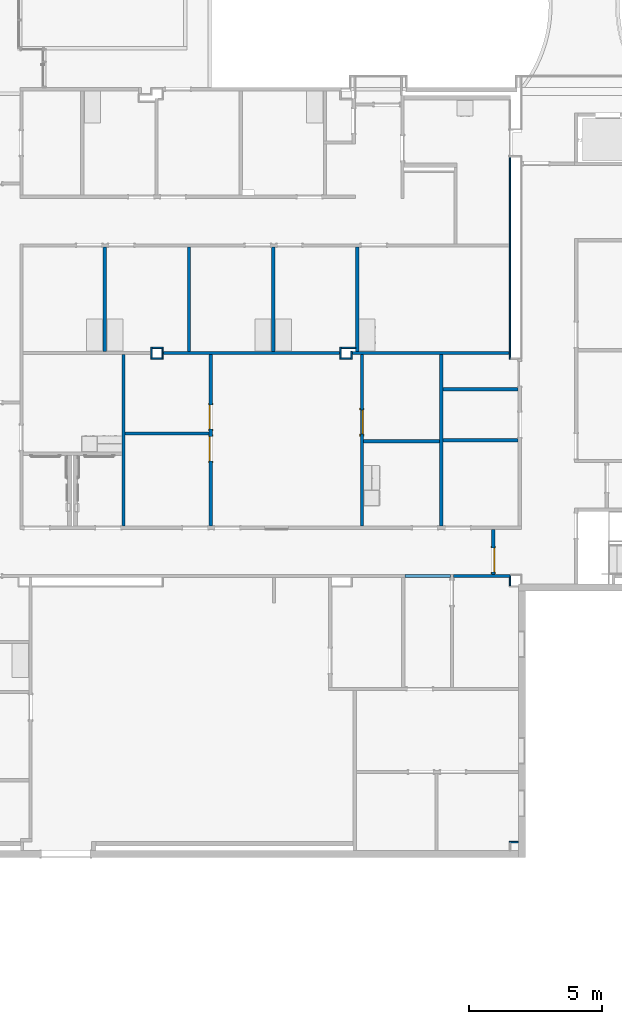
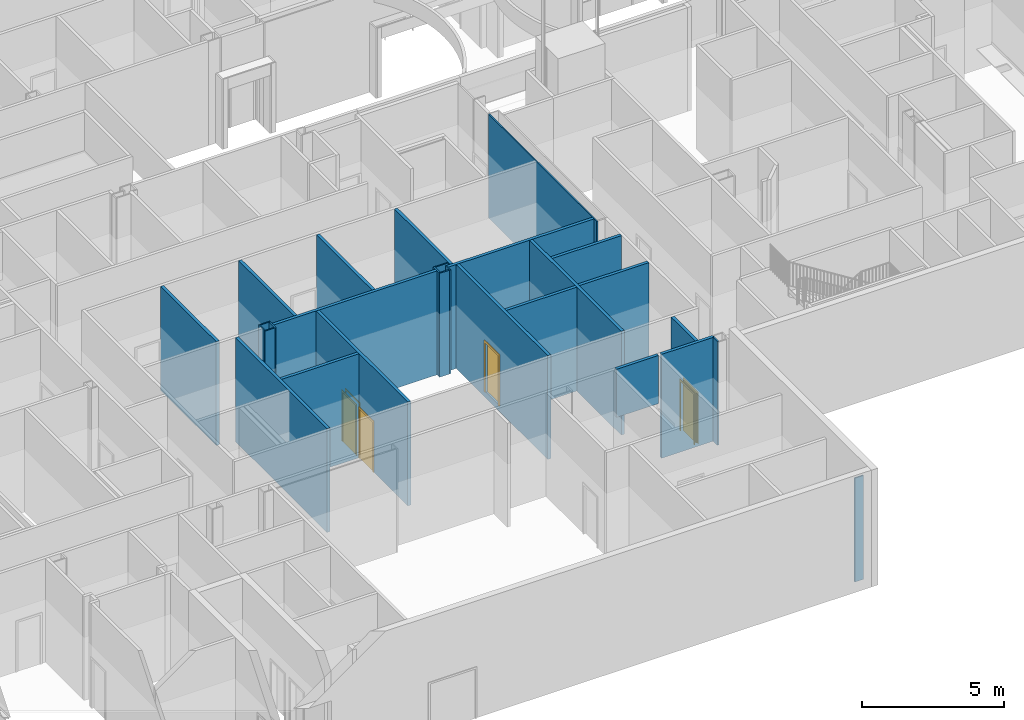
# One storey, part 22 of 87: 28 walls, 4 doors, 4 openings.
"""IFC2X3 building model written with IfcOpenShell, lengths in metres."""

from ifc_helpers import new_model, entity, si_unit, converted_unit, frame, frame_2d, origin, origin_2d_with_axis, place, context, project, spatial, polyline, rectangle, outline, extrude, source, transform, mapped, material, layer, layer_set, layer_usage, type_object, type_shapes, element, fill, save


model = new_model("IFC2X3")

# Units and contexts
model_context = context("Model", 3, precision=1e-09, world=origin())
plan_context = context("Plan", 3, precision=1e-09, world=origin())
ifc_project = project(units=[si_unit("LENGTHUNIT", "METRE"), si_unit("AREAUNIT", "SQUARE_METRE"), si_unit("VOLUMEUNIT", "CUBIC_METRE"), converted_unit("PLANEANGLEUNIT", "DEGREE", entity("IfcRatioMeasure", 0.01745329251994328), si_unit("PLANEANGLEUNIT", "RADIAN"), dimensions=[0, 0, 0, 0, 0, 0, 0]), si_unit("TIMEUNIT", "SECOND")], contexts=[model_context, plan_context])

# Site, building, storey
site_placement = place(None, origin())
site = spatial("IfcSite", under=ifc_project, at=site_placement, Name="Default", CompositionType="ELEMENT")
building_placement = place(site_placement, origin())
building = spatial("IfcBuilding", under=site, at=building_placement, CompositionType="ELEMENT")
storey_placement = place(building_placement, origin())
storey = spatial("IfcBuildingStorey", under=building, at=storey_placement, Name="First Floor", CompositionType="ELEMENT", Elevation=-3.531500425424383e-13)

# Walls
ifc_material_1 = material(Name="Plasterboard")
ifc_layer_1 = layer(ifc_material_1, 0.016)
ifc_material_2 = material(Name="Metal - Stud Layer")
ifc_layer_2 = layer(ifc_material_2, 0.092)
ifc_layer_3 = layer(ifc_material_1, 0.016)
ifc_layer_set_1 = layer_set([ifc_layer_1, ifc_layer_2, ifc_layer_3], Name="Basic Wall:Interior - Partition (92mm Stud)")
ifc_layer_usage_1 = layer_usage(ifc_layer_set_1, "AXIS2", "NEGATIVE", 0.062)
wall_1_placement = place(storey_placement, frame((-35.52200000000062, 22.60599999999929, 0.0), z_axis=(0.0, 0.0, 1.0), x_axis=(0.0, -1.0, 0.0)))
element("IfcWallStandardCase", 1, at=wall_1_placement, inside=storey, material=ifc_layer_usage_1, Name="Basic Wall:Interior - Partition (92mm Stud)", ObjectType="Basic Wall:Interior - Partition (92mm Stud)", context=model_context, shape_type="SweptSolid", body=[
    extrude(rectangle(XDim=3.921999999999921, YDim=0.1239999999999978, at=frame_2d((1.96099999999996, 0.0), x_axis=(-1.0, 0.0))), origin(), (0.0, 0.0, 1.0), 4.46800000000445),
])
ifc_layer_usage_2 = layer_usage(ifc_layer_set_1, "AXIS2", "NEGATIVE", 0.062)
wall_2_placement = place(storey_placement, frame((-32.35200000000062, 22.60599999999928, 0.0), z_axis=(0.0, 0.0, 1.0), x_axis=(0.0, -1.0, 0.0)))
element("IfcWallStandardCase", 2, at=wall_2_placement, inside=storey, material=ifc_layer_usage_2, Name="Basic Wall:Interior - Partition (92mm Stud)", ObjectType="Basic Wall:Interior - Partition (92mm Stud)", context=model_context, shape_type="SweptSolid", body=[
    extrude(rectangle(XDim=3.921999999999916, YDim=0.1239999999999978, at=frame_2d((1.960999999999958, 0.0), x_axis=(-1.0, 0.0))), origin(), (0.0, 0.0, 1.0), 4.46800000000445),
])
ifc_layer_usage_3 = layer_usage(ifc_layer_set_1, "AXIS2", "NEGATIVE", 0.062)
wall_3_placement = place(storey_placement, frame((-29.18200000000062, 22.60599999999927, 0.0), z_axis=(0.0, 0.0, 1.0), x_axis=(0.0, -1.0, 0.0)))
element("IfcWallStandardCase", 3, at=wall_3_placement, inside=storey, material=ifc_layer_usage_3, Name="Basic Wall:Interior - Partition (92mm Stud)", ObjectType="Basic Wall:Interior - Partition (92mm Stud)", context=model_context, shape_type="SweptSolid", body=[
    extrude(rectangle(XDim=3.921999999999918, YDim=0.1239999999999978, at=frame_2d((1.960999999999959, 0.0), x_axis=(-1.0, 0.0))), origin(), (0.0, 0.0, 1.0), 4.46800000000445),
])
ifc_layer_usage_4 = layer_usage(ifc_layer_set_1, "AXIS2", "NEGATIVE", 0.062)
wall_4_placement = place(storey_placement, frame((-26.01200000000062, 22.60599999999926, 0.0), z_axis=(0.0, 0.0, 1.0), x_axis=(0.0, -1.0, 0.0)))
element("IfcWallStandardCase", 4, at=wall_4_placement, inside=storey, material=ifc_layer_usage_4, Name="Basic Wall:Interior - Partition (92mm Stud)", ObjectType="Basic Wall:Interior - Partition (92mm Stud)", context=model_context, shape_type="SweptSolid", body=[
    extrude(rectangle(XDim=3.921999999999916, YDim=0.1239999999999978, at=frame_2d((1.960999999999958, 0.0), x_axis=(-1.0, 0.0))), origin(), (0.0, 0.0, 1.0), 4.46800000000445),
])
ifc_layer_usage_5 = layer_usage(ifc_layer_set_1, "AXIS2", "NEGATIVE", 0.062)
wall_5_placement = place(storey_placement, frame((-20.29000000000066, 18.62199999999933, 0.0), z_axis=(0.0, 0.0, 1.0), x_axis=(-1.0, 0.0, 0.0)))
element("IfcWallStandardCase", 5, at=wall_5_placement, inside=storey, material=ifc_layer_usage_5, Name="Basic Wall:Interior - Partition (92mm Stud)", ObjectType="Basic Wall:Interior - Partition (92mm Stud)", context=model_context, shape_type="SweptSolid", body=[
    extrude(rectangle(XDim=5.919999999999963, YDim=0.1240000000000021, at=frame_2d((2.959999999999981, 0.0), x_axis=(-1.0, 0.0))), origin(), (0.0, 0.0, 1.0), 4.468000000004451),
])
ifc_layer_4 = layer(ifc_material_2, 0.038)
ifc_layer_5 = layer(ifc_material_1, 0.016)
ifc_layer_set_2 = layer_set([ifc_layer_4, ifc_layer_5], Name="Basic Wall:Interior - Furring (38 mm Stud)")
ifc_layer_usage_6 = layer_usage(ifc_layer_set_2, "AXIS2", "POSITIVE", -0.027)
wall_6_placement = place(storey_placement, frame((-26.64300000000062, 18.43399999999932, 0.0), z_axis=(0.0, 0.0, 1.0), x_axis=(0.0, 1.0, 0.0)))
element("IfcWallStandardCase", 6, at=wall_6_placement, inside=storey, material=ifc_layer_usage_6, Name="Basic Wall:Interior - Furring (38 mm Stud)", ObjectType="Basic Wall:Interior - Furring (38 mm Stud)", context=model_context, shape_type="SweptSolid", body=[
    extrude(rectangle(XDim=0.4059999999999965, YDim=0.05399999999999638, at=frame_2d((0.2029999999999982, 0.0), x_axis=(-1.0, 0.0))), origin(), (0.0, 0.0, 1.0), 4.468000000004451),
])
ifc_layer_usage_7 = layer_usage(ifc_layer_set_2, "AXIS2", "POSITIVE", -0.027)
wall_7_placement = place(storey_placement, frame((-26.61600000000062, 18.81299999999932, 0.0)))
element("IfcWallStandardCase", 7, at=wall_7_placement, inside=storey, material=ifc_layer_usage_7, Name="Basic Wall:Interior - Furring (38 mm Stud)", ObjectType="Basic Wall:Interior - Furring (38 mm Stud)", context=model_context, shape_type="SweptSolid", body=[
    extrude(rectangle(XDim=0.5419999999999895, YDim=0.05400000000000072, at=frame_2d((0.2709999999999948, 0.0), x_axis=(-1.0, 0.0))), origin(), (0.0, 0.0, 1.0), 4.46800000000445),
])
ifc_layer_usage_8 = layer_usage(ifc_layer_set_1, "AXIS2", "NEGATIVE", 0.062)
wall_8_placement = place(storey_placement, frame((-26.67000000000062, 18.62199999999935, 0.0), z_axis=(0.0, 0.0, 1.0), x_axis=(-1.0, 0.0, 0.0)))
element("IfcWallStandardCase", 8, at=wall_8_placement, inside=storey, material=ifc_layer_usage_8, Name="Basic Wall:Interior - Partition (92mm Stud)", ObjectType="Basic Wall:Interior - Partition (92mm Stud)", context=model_context, shape_type="SweptSolid", body=[
    extrude(rectangle(XDim=6.650000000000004, YDim=0.1240000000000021, at=frame_2d((3.325000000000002, 0.0), x_axis=(-1.0, 0.0))), origin(), (0.0, 0.0, 1.0), 4.468000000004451),
])
ifc_layer_usage_9 = layer_usage(ifc_layer_set_2, "AXIS2", "POSITIVE", -0.027)
wall_9_placement = place(storey_placement, frame((-26.23700000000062, 18.68399999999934, 0.0), z_axis=(0.0, 0.0, 1.0), x_axis=(0.0, -1.0, 0.0)))
element("IfcWallStandardCase", 9, at=wall_9_placement, inside=storey, material=ifc_layer_usage_9, Name="Basic Wall:Interior - Furring (38 mm Stud)", ObjectType="Basic Wall:Interior - Furring (38 mm Stud)", context=model_context, shape_type="SweptSolid", body=[
    extrude(rectangle(XDim=0.3040000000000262, YDim=0.05399999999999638, at=frame_2d((0.1520000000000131, 0.0), x_axis=(-1.0, 0.0))), origin(), (0.0, 0.0, 1.0), 4.468000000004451),
])
ifc_layer_usage_10 = layer_usage(ifc_layer_set_2, "AXIS2", "POSITIVE", -0.027)
wall_10_placement = place(storey_placement, frame((-26.26400000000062, 18.40699999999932, 0.0), z_axis=(0.0, 0.0, 1.0), x_axis=(-1.0, 0.0, 0.0)))
element("IfcWallStandardCase", 10, at=wall_10_placement, inside=storey, material=ifc_layer_usage_10, Name="Basic Wall:Interior - Furring (38 mm Stud)", ObjectType="Basic Wall:Interior - Furring (38 mm Stud)", context=model_context, shape_type="SweptSolid", body=[
    extrude(rectangle(XDim=0.4059999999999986, YDim=0.05400000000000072, at=frame_2d((0.2029999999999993, 0.0), x_axis=(-1.0, 0.0))), origin(), (0.0, 0.0, 1.0), 4.468000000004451),
])
ifc_layer_usage_11 = layer_usage(ifc_layer_set_2, "AXIS2", "POSITIVE", -0.027)
wall_11_placement = place(storey_placement, frame((-33.75300000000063, 18.43399999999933, 0.0), z_axis=(0.0, 0.0, 1.0), x_axis=(0.0, 1.0, 0.0)))
element("IfcWallStandardCase", 11, at=wall_11_placement, inside=storey, material=ifc_layer_usage_11, Name="Basic Wall:Interior - Furring (38 mm Stud)", ObjectType="Basic Wall:Interior - Furring (38 mm Stud)", context=model_context, shape_type="SweptSolid", body=[
    extrude(rectangle(XDim=0.4059999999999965, YDim=0.05399999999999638, at=frame_2d((0.2029999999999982, 0.0), x_axis=(-1.0, 0.0))), origin(), (0.0, 0.0, 1.0), 4.46800000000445),
])
ifc_layer_usage_12 = layer_usage(ifc_layer_set_2, "AXIS2", "POSITIVE", -0.027)
wall_12_placement = place(storey_placement, frame((-33.72600000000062, 18.81299999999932, 0.0)))
element("IfcWallStandardCase", 12, at=wall_12_placement, inside=storey, material=ifc_layer_usage_12, Name="Basic Wall:Interior - Furring (38 mm Stud)", ObjectType="Basic Wall:Interior - Furring (38 mm Stud)", context=model_context, shape_type="SweptSolid", body=[
    extrude(rectangle(XDim=0.4059999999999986, YDim=0.05400000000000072, at=frame_2d((0.2029999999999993, 0.0), x_axis=(-1.0, 0.0))), origin(), (0.0, 0.0, 1.0), 4.468000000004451),
])
ifc_layer_usage_13 = layer_usage(ifc_layer_set_2, "AXIS2", "POSITIVE", -0.027)
wall_13_placement = place(storey_placement, frame((-33.34700000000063, 18.78599999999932, 0.0), z_axis=(0.0, 0.0, 1.0), x_axis=(0.0, -1.0, 0.0)))
element("IfcWallStandardCase", 13, at=wall_13_placement, inside=storey, material=ifc_layer_usage_13, Name="Basic Wall:Interior - Furring (38 mm Stud)", ObjectType="Basic Wall:Interior - Furring (38 mm Stud)", context=model_context, shape_type="SweptSolid", body=[
    extrude(rectangle(XDim=0.4059999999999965, YDim=0.05399999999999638, at=frame_2d((0.2029999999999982, 0.0), x_axis=(-1.0, 0.0))), origin(), (0.0, 0.0, 1.0), 4.46800000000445),
])
ifc_layer_usage_14 = layer_usage(ifc_layer_set_2, "AXIS2", "POSITIVE", -0.027)
wall_14_placement = place(storey_placement, frame((-33.37400000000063, 18.40699999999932, 0.0), z_axis=(0.0, 0.0, 1.0), x_axis=(-1.0, 0.0, 0.0)))
element("IfcWallStandardCase", 14, at=wall_14_placement, inside=storey, material=ifc_layer_usage_14, Name="Basic Wall:Interior - Furring (38 mm Stud)", ObjectType="Basic Wall:Interior - Furring (38 mm Stud)", context=model_context, shape_type="SweptSolid", body=[
    extrude(rectangle(XDim=0.4059999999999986, YDim=0.05400000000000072, at=frame_2d((0.2029999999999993, 0.0), x_axis=(-1.0, 0.0))), origin(), (0.0, 0.0, 1.0), 4.468000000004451),
])
ifc_layer_usage_15 = layer_usage(ifc_layer_set_1, "AXIS2", "NEGATIVE", 0.062)
wall_15_placement = place(storey_placement, frame((-34.81200000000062, 18.55999999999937, 0.0), z_axis=(0.0, 0.0, 1.0), x_axis=(0.0, -1.0, 0.0)))
element("IfcWallStandardCase", 15, at=wall_15_placement, inside=storey, material=ifc_layer_usage_15, Name="Basic Wall:Interior - Partition (92mm Stud)", ObjectType="Basic Wall:Interior - Partition (92mm Stud)", context=model_context, shape_type="SweptSolid", body=[
    extrude(rectangle(XDim=6.456000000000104, YDim=0.1239999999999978, at=frame_2d((3.228000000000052, 0.0), x_axis=(-1.0, 0.0))), origin(), (0.0, 0.0, 1.0), 4.468000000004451),
])

# Wall, openings, doors
ifc_layer_usage_16 = layer_usage(ifc_layer_set_1, "AXIS2", "NEGATIVE", 0.062)
wall_16_placement = place(storey_placement, frame((-31.53200000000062, 18.55999999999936, 0.0), z_axis=(0.0, 0.0, 1.0), x_axis=(0.0, -1.0, 0.0)))
wall_16 = element("IfcWallStandardCase", 16, at=wall_16_placement, inside=storey, material=ifc_layer_usage_16, Name="Basic Wall:Interior - Partition (92mm Stud)", ObjectType="Basic Wall:Interior - Partition (92mm Stud)", context=model_context, shape_type="SweptSolid", body=[
    extrude(rectangle(XDim=6.456000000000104, YDim=0.1239999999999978, at=frame_2d((3.228000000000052, 0.0), x_axis=(-1.0, 0.0))), origin(), (0.0, 0.0, 1.0), 4.46800000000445),
])
opening_1_placement = place(wall_16_placement, frame((2.81000000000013, 0.06199999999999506, 0.0)))
opening_1 = element("IfcOpeningElement", 17, at=opening_1_placement, cuts=wall_16, Name="M_Single-Flush:0915 x 2134mm:0915 x 2134mm:1", ObjectType="Opening", context=model_context, shape_type="SweptSolid", body=[
    extrude(rectangle(XDim=0.9149999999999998, YDim=2.134, at=frame_2d((1.067, 0.4574999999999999), x_axis=(0.0, -1.0))), frame((0.0, 0.0, 0.0), z_axis=(0.0, -1.0, 0.0), x_axis=(0.0, 0.0, 1.0)), (0.0, 0.0, 1.0), 0.124),
])
opening_2_placement = place(wall_16_placement, frame((4.009000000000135, 0.06199999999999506, 0.0)))
opening_2 = element("IfcOpeningElement", 18, at=opening_2_placement, cuts=wall_16, Name="M_Single-Flush:0915 x 2134mm:0915 x 2134mm:1", ObjectType="Opening", context=model_context, shape_type="SweptSolid", body=[
    extrude(rectangle(XDim=0.9149999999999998, YDim=2.134, at=frame_2d((1.067, 0.4575), x_axis=(0.0, 1.0))), frame((0.0, 0.0, 0.0), z_axis=(0.0, -1.0, 0.0), x_axis=(0.0, 0.0, 1.0)), (0.0, 0.0, 1.0), 0.124),
])
door_style_1 = type_object("IfcDoorStyle", Name="0915 x 2134mm", ConstructionType="NOTDEFINED", OperationType="SINGLE_SWING_RIGHT", ParameterTakesPrecedence=False, Sizeable=False)
shared_shape_1 = source(origin(), model_context, "Body", "SweptSolid", [
    extrude(outline(polyline([(-0.5335, -1.123999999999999), (0.5334999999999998, -1.123999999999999), (0.5334999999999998, 1.086), (0.4574999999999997, 1.086), (0.4574999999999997, -1.048000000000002), (-0.4574999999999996, -1.048000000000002), (-0.4574999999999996, 1.086), (-0.5335, 1.086), (-0.5335, -1.123999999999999)])), frame((0.4575000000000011, 0.1239999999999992, 1.086), z_axis=(0.0, 1.0, 0.0), x_axis=(1.0, 0.0, 0.0)), (0.0, 0.0, 1.0), 0.02499999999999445),
    extrude(outline(polyline([(-1.123999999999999, -0.5334999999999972), (1.085999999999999, -0.5334999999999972), (1.085999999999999, -0.4575000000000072), (-1.048, -0.4575000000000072), (-1.048, 0.4575000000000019), (1.085999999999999, 0.4575000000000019), (1.085999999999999, 0.5335000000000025), (-1.123999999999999, 0.5335000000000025), (-1.123999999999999, -0.5334999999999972)])), frame((0.4575000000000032, -0.02500000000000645, 1.085999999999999), z_axis=(0.0, 1.0, 0.0), x_axis=(0.0, 0.0, -1.0)), (0.0, 0.0, 1.0), 0.02500000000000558),
    extrude(rectangle(XDim=0.051, YDim=0.9149999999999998, at=origin_2d_with_axis()), frame((0.4575000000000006, 0.09849999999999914, 0.0), z_axis=(0.0, 0.0, 1.0), x_axis=(0.0, 1.0, 0.0)), (0.0, 0.0, 1.0), 2.133999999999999),
])
type_shapes(door_style_1, [shared_shape_1])
door_1_placement = place(opening_2_placement, frame((0.0, 0.0, 0.0), z_axis=(0.0, 0.0, 1.0), x_axis=(-1.0, 0.0, 0.0)))
door_1 = element("IfcDoor", 19, at=door_1_placement, inside=storey, type_object=door_style_1, Name="M_Single-Flush:0915 x 2134mm:0915 x 2134mm", ObjectType="0915 x 2134mm", OverallHeight=2.134, OverallWidth=0.9149999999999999, context=model_context, shape_type="MappedRepresentation", body=[
    mapped(shared_shape_1, transform((0.0, 0.0, 0.0), scale=1.0)),
])
fill(opening_2, door_1)
door_style_2 = type_object("IfcDoorStyle", Name="0915 x 2134mm", ConstructionType="NOTDEFINED", OperationType="SINGLE_SWING_LEFT", ParameterTakesPrecedence=False, Sizeable=False)
shared_shape_2 = source(origin(), model_context, "Body", "SweptSolid", [
    extrude(outline(polyline([(-0.5335, -1.123999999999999), (0.5334999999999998, -1.123999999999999), (0.5334999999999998, 1.086), (0.4574999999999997, 1.086), (0.4574999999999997, -1.048000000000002), (-0.4574999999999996, -1.048000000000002), (-0.4574999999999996, 1.086), (-0.5335, 1.086), (-0.5335, -1.123999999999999)])), frame((0.4575000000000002, 0.1489999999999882, 1.086), z_axis=(0.0, -1.0, 0.0), x_axis=(-1.0, 0.0, 0.0)), (0.0, 0.0, 1.0), 0.02499999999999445),
    extrude(outline(polyline([(-1.123999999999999, -0.5334999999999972), (1.085999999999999, -0.5334999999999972), (1.085999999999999, -0.4575000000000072), (-1.048, -0.4575000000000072), (-1.048, 0.4575000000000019), (1.085999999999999, 0.4575000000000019), (1.085999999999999, 0.5335000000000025), (-1.123999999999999, 0.5335000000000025), (-1.123999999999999, -0.5334999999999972)])), frame((0.4574999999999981, 0.0, 1.085999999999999), z_axis=(0.0, -1.0, 0.0), x_axis=(0.0, 0.0, -1.0)), (0.0, 0.0, 1.0), 0.02500000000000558),
    extrude(rectangle(XDim=0.9149999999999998, YDim=0.051, at=origin_2d_with_axis()), frame((0.4575000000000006, 0.09849999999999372, 0.0)), (0.0, 0.0, 1.0), 2.133999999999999),
])
type_shapes(door_style_2, [shared_shape_2])
door_2_placement = place(opening_1_placement, frame((0.0, 0.0, 0.0), z_axis=(0.0, 0.0, 1.0), x_axis=(-1.0, 0.0, 0.0)))
door_2 = element("IfcDoor", 20, at=door_2_placement, inside=storey, type_object=door_style_2, Name="M_Single-Flush:0915 x 2134mm:0915 x 2134mm", ObjectType="0915 x 2134mm", OverallHeight=2.134, OverallWidth=0.9149999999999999, context=model_context, shape_type="MappedRepresentation", body=[
    mapped(shared_shape_2, transform((0.0, 0.0, 0.0), scale=1.0)),
])
fill(opening_1, door_2)

# Wall
ifc_layer_usage_17 = layer_usage(ifc_layer_set_1, "AXIS2", "NEGATIVE", 0.062)
wall_17_placement = place(storey_placement, frame((-34.75000000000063, 15.58799999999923, 0.0)))
element("IfcWallStandardCase", 21, at=wall_17_placement, inside=storey, material=ifc_layer_usage_17, Name="Basic Wall:Interior - Partition (92mm Stud)", ObjectType="Basic Wall:Interior - Partition (92mm Stud)", context=model_context, shape_type="SweptSolid", body=[
    extrude(rectangle(XDim=3.156000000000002, YDim=0.1240000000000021, at=frame_2d((1.578000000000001, 0.0), x_axis=(-1.0, 0.0))), origin(), (0.0, 0.0, 1.0), 4.46800000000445),
])

# Wall, opening, door
ifc_layer_usage_18 = layer_usage(ifc_layer_set_1, "AXIS2", "NEGATIVE", 0.062)
wall_18_placement = place(storey_placement, frame((-25.83800000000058, 12.10399999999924, 0.0), z_axis=(0.0, 0.0, 1.0), x_axis=(0.0, 1.0, 0.0)))
wall_18 = element("IfcWallStandardCase", 22, at=wall_18_placement, inside=storey, material=ifc_layer_usage_18, Name="Basic Wall:Interior - Partition (92mm Stud)", ObjectType="Basic Wall:Interior - Partition (92mm Stud)", context=model_context, shape_type="SweptSolid", body=[
    extrude(rectangle(XDim=6.456000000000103, YDim=0.1239999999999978, at=frame_2d((3.228000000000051, 0.0), x_axis=(-1.0, 0.0))), origin(), (0.0, 0.0, 1.0), 4.468000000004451),
])
opening_3_placement = place(wall_18_placement, frame((4.371000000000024, 0.06199999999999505, 0.2499999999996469)))
opening_3 = element("IfcOpeningElement", 23, at=opening_3_placement, cuts=wall_18, Name="M_Single-Flush:0915 x 2134mm Rated:0915 x 2134mm Rated:1", ObjectType="Opening", context=model_context, shape_type="SweptSolid", body=[
    extrude(rectangle(XDim=0.9149999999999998, YDim=2.134, at=frame_2d((1.067, 0.4575), x_axis=(0.0, 1.0))), frame((0.0, 0.0, 0.0), z_axis=(0.0, -1.0, 0.0), x_axis=(0.0, 0.0, 1.0)), (0.0, 0.0, 1.0), 0.124),
])
door_style_3 = type_object("IfcDoorStyle", Name="0915 x 2134mm Rated", ConstructionType="NOTDEFINED", OperationType="SINGLE_SWING_RIGHT", ParameterTakesPrecedence=False, Sizeable=False)
shared_shape_3 = source(origin(), model_context, "Body", "SweptSolid", [
    extrude(outline(polyline([(-0.5335, -1.123999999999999), (0.5334999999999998, -1.123999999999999), (0.5334999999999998, 1.086), (0.4574999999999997, 1.086), (0.4574999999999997, -1.048000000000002), (-0.4574999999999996, -1.048000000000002), (-0.4574999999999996, 1.086), (-0.5335, 1.086), (-0.5335, -1.123999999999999)])), frame((0.4575000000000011, 0.1240000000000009, 1.086), z_axis=(0.0, 1.0, 0.0), x_axis=(1.0, 0.0, 0.0)), (0.0, 0.0, 1.0), 0.02499999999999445),
    extrude(outline(polyline([(-1.123999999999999, -0.5334999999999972), (1.085999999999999, -0.5334999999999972), (1.085999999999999, -0.4575000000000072), (-1.048, -0.4575000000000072), (-1.048, 0.4575000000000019), (1.085999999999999, 0.4575000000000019), (1.085999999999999, 0.5335000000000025), (-1.123999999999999, 0.5335000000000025), (-1.123999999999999, -0.5334999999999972)])), frame((0.4575000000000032, -0.02500000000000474, 1.085999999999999), z_axis=(0.0, 1.0, 0.0), x_axis=(0.0, 0.0, -1.0)), (0.0, 0.0, 1.0), 0.02500000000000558),
    extrude(rectangle(XDim=0.051, YDim=0.9149999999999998, at=origin_2d_with_axis()), frame((0.4575000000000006, 0.09850000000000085, 0.0), z_axis=(0.0, 0.0, 1.0), x_axis=(0.0, 1.0, 0.0)), (0.0, 0.0, 1.0), 2.133999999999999),
])
type_shapes(door_style_3, [shared_shape_3])
door_3_placement = place(opening_3_placement, frame((0.0, 0.0, 0.0), z_axis=(0.0, 0.0, 1.0), x_axis=(-1.0, 0.0, 0.0)))
door_3 = element("IfcDoor", 24, at=door_3_placement, inside=storey, type_object=door_style_3, Name="M_Single-Flush:0915 x 2134mm Rated:0915 x 2134mm Rated", ObjectType="0915 x 2134mm Rated", OverallHeight=2.134, OverallWidth=0.9149999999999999, context=model_context, shape_type="MappedRepresentation", body=[
    mapped(shared_shape_3, transform((0.0, 0.0, 0.0), scale=1.0)),
])
fill(opening_3, door_3)

# Walls
ifc_layer_usage_19 = layer_usage(ifc_layer_set_1, "AXIS2", "NEGATIVE", 0.062)
wall_19_placement = place(storey_placement, frame((-22.84800000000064, 12.10399999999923, 0.0), z_axis=(0.0, 0.0, 1.0), x_axis=(0.0, 1.0, 0.0)))
element("IfcWallStandardCase", 25, at=wall_19_placement, inside=storey, material=ifc_layer_usage_19, Name="Basic Wall:Interior - Partition (92mm Stud)", ObjectType="Basic Wall:Interior - Partition (92mm Stud)", context=model_context, shape_type="SweptSolid", body=[
    extrude(rectangle(XDim=6.456000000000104, YDim=0.1239999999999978, at=frame_2d((3.228000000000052, 0.0), x_axis=(-1.0, 0.0))), origin(), (0.0, 0.0, 1.0), 4.46800000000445),
])
ifc_layer_usage_20 = layer_usage(ifc_layer_set_1, "AXIS2", "NEGATIVE", 0.062)
wall_20_placement = place(storey_placement, frame((-25.77600000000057, 15.29799999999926, 0.0)))
element("IfcWallStandardCase", 26, at=wall_20_placement, inside=storey, material=ifc_layer_usage_20, Name="Basic Wall:Interior - Partition (92mm Stud)", ObjectType="Basic Wall:Interior - Partition (92mm Stud)", context=model_context, shape_type="SweptSolid", body=[
    extrude(rectangle(XDim=2.865999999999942, YDim=0.1240000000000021, at=frame_2d((1.432999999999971, 0.0), x_axis=(-1.0, 0.0))), origin(), (0.0, 0.0, 1.0), 4.46800000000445),
])
ifc_layer_usage_21 = layer_usage(ifc_layer_set_1, "AXIS2", "NEGATIVE", 0.062)
wall_21_placement = place(storey_placement, frame((-19.95400000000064, 15.33199999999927, 0.0), z_axis=(0.0, 0.0, 1.0), x_axis=(-1.0, 0.0, 0.0)))
element("IfcWallStandardCase", 27, at=wall_21_placement, inside=storey, material=ifc_layer_usage_21, Name="Basic Wall:Interior - Partition (92mm Stud)", ObjectType="Basic Wall:Interior - Partition (92mm Stud)", context=model_context, shape_type="SweptSolid", body=[
    extrude(rectangle(XDim=2.831999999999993, YDim=0.1240000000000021, at=frame_2d((1.415999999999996, 0.0), x_axis=(-1.0, 0.0))), origin(), (0.0, 0.0, 1.0), 4.46800000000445),
])
ifc_layer_usage_22 = layer_usage(ifc_layer_set_1, "AXIS2", "NEGATIVE", 0.062)
wall_22_placement = place(storey_placement, frame((-19.95400000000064, 17.25199999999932, 0.0), z_axis=(0.0, 0.0, 1.0), x_axis=(-1.0, 0.0, 0.0)))
element("IfcWallStandardCase", 28, at=wall_22_placement, inside=storey, material=ifc_layer_usage_22, Name="Basic Wall:Interior - Partition (92mm Stud)", ObjectType="Basic Wall:Interior - Partition (92mm Stud)", context=model_context, shape_type="SweptSolid", body=[
    extrude(rectangle(XDim=2.831999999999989, YDim=0.1240000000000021, at=frame_2d((1.415999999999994, 0.0), x_axis=(-1.0, 0.0))), origin(), (0.0, 0.0, 1.0), 4.46800000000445),
])
ifc_layer_usage_23 = layer_usage(ifc_layer_set_1, "AXIS2", "NEGATIVE", 0.062)
wall_23_placement = place(storey_placement, frame((-22.38600000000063, 10.22499999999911, 0.0)))
element("IfcWallStandardCase", 29, at=wall_23_placement, inside=storey, material=ifc_layer_usage_23, Name="Basic Wall:Interior - Partition (92mm Stud)", ObjectType="Basic Wall:Interior - Partition (92mm Stud)", context=model_context, shape_type="SweptSolid", body=[
    extrude(rectangle(XDim=2.122999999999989, YDim=0.1240000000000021, at=frame_2d((1.061499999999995, 0.0), x_axis=(-1.0, 0.0))), origin(), (0.0, 0.0, 1.0), 4.46800000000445),
])
ifc_layer_usage_24 = layer_usage(ifc_layer_set_2, "AXIS2", "POSITIVE", -0.027)
wall_24_placement = place(storey_placement, frame((-20.26300000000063, 9.863999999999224, 0.0), z_axis=(0.0, 0.0, 1.0), x_axis=(0.0, 1.0, 0.0)))
element("IfcWallStandardCase", 30, at=wall_24_placement, inside=storey, material=ifc_layer_usage_24, Name="Basic Wall:Interior - Furring (38 mm Stud)", ObjectType="Basic Wall:Interior - Furring (38 mm Stud)", context=model_context, shape_type="SweptSolid", body=[
    extrude(outline(polyline([(0.3689999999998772, -0.02700000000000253), (0.3689999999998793, 0.0), (0.2989999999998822, 0.0), (0.2989999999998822, 0.02699999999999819), (0.0, 0.02699999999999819), (0.0, -0.02700000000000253), (0.3689999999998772, -0.02700000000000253)])), origin(), (0.0, 0.0, 1.0), 4.468000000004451),
])

# Wall, opening, door
ifc_layer_usage_25 = layer_usage(ifc_layer_set_1, "AXIS2", "NEGATIVE", 0.062)
wall_25_placement = place(storey_placement, frame((-20.89200000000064, 11.97999999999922, 0.0), z_axis=(0.0, 0.0, 1.0), x_axis=(0.0, -1.0, 0.0)))
wall_25 = element("IfcWallStandardCase", 31, at=wall_25_placement, inside=storey, material=ifc_layer_usage_25, Name="Basic Wall:Interior - Partition (92mm Stud)", ObjectType="Basic Wall:Interior - Partition (92mm Stud)", context=model_context, shape_type="SweptSolid", body=[
    extrude(rectangle(XDim=1.693000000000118, YDim=0.1239999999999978, at=frame_2d((0.8465000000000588, 0.0), x_axis=(-1.0, 0.0))), origin(), (0.0, 0.0, 1.0), 4.46800000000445),
])
opening_4_placement = place(wall_25_placement, frame((0.695000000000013, -0.06200000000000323, 0.0)))
opening_4 = element("IfcOpeningElement", 32, at=opening_4_placement, cuts=wall_25, Name="M_Single-Flush:0915 x 2134mm:0915 x 2134mm:1", ObjectType="Opening", context=model_context, shape_type="SweptSolid", body=[
    extrude(rectangle(XDim=0.9149999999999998, YDim=2.134, at=frame_2d((1.067, 0.4575), x_axis=(0.0, 1.0))), frame((0.0, 0.0, 0.0), z_axis=(0.0, 1.0, 0.0), x_axis=(0.0, 0.0, 1.0)), (0.0, 0.0, 1.0), 0.124),
])
door_4_placement = place(opening_4_placement, origin())
door_4 = element("IfcDoor", 33, at=door_4_placement, inside=storey, type_object=door_style_1, Name="M_Single-Flush:0915 x 2134mm:0915 x 2134mm", ObjectType="0915 x 2134mm", OverallHeight=2.134, OverallWidth=0.9149999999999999, context=model_context, shape_type="MappedRepresentation", body=[
    mapped(shared_shape_1, transform((0.0, 0.0, 0.0), scale=1.0)),
])
fill(opening_4, door_4)

# Walls
ifc_layer_usage_26 = layer_usage(ifc_layer_set_1, "AXIS2", "NEGATIVE", 0.062)
wall_26_placement = place(storey_placement, frame((-24.22000000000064, 10.22499999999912, 2.4)))
element("IfcWallStandardCase", 34, at=wall_26_placement, inside=storey, material=ifc_layer_usage_26, Name="Basic Wall:Interior - Partition (92mm Stud)", ObjectType="Basic Wall:Interior - Partition (92mm Stud)", context=model_context, shape_type="SweptSolid", body=[
    extrude(rectangle(XDim=1.71000000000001, YDim=0.1240000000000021, at=frame_2d((0.8550000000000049, 0.0), x_axis=(-1.0, 0.0))), origin(), (0.0, 0.0, 1.0), 2.06800000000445),
])
ifc_layer_usage_27 = layer_usage(ifc_layer_set_2, "AXIS2", "NEGATIVE", 0.027)
wall_27_placement = place(storey_placement, frame((-19.9470000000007, 0.2029999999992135, 0.0), z_axis=(0.0, 0.0, 1.0), x_axis=(-1.0, 0.0, 0.0)))
element("IfcWallStandardCase", 35, at=wall_27_placement, inside=storey, material=ifc_layer_usage_27, Name="Basic Wall:Interior - Furring (38 mm Stud)", ObjectType="Basic Wall:Interior - Furring (38 mm Stud)", context=model_context, shape_type="SweptSolid", body=[
    extrude(rectangle(XDim=0.3429999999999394, YDim=0.05400000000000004, at=frame_2d((0.1714999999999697, 0.0), x_axis=(-1.0, 0.0))), origin(), (0.0, 0.0, 1.0), 4.46800000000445),
])
ifc_layer_usage_28 = layer_usage(ifc_layer_set_2, "AXIS2", "NEGATIVE", 0.027)
wall_28_placement = place(storey_placement, frame((-20.26300000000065, 25.99199999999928, 0.0), z_axis=(0.0, 0.0, 1.0), x_axis=(0.0, -1.0, 0.0)))
element("IfcWallStandardCase", 36, at=wall_28_placement, inside=storey, material=ifc_layer_usage_28, Name="Basic Wall:Interior - Furring (38 mm Stud)", ObjectType="Basic Wall:Interior - Furring (38 mm Stud)", context=model_context, shape_type="SweptSolid", body=[
    extrude(rectangle(XDim=7.611999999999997, YDim=0.05399999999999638, at=frame_2d((3.805999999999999, 0.0), x_axis=(-1.0, 0.0))), origin(), (0.0, 0.0, 1.0), 4.46800000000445),
])

save(model, "model.ifc")
